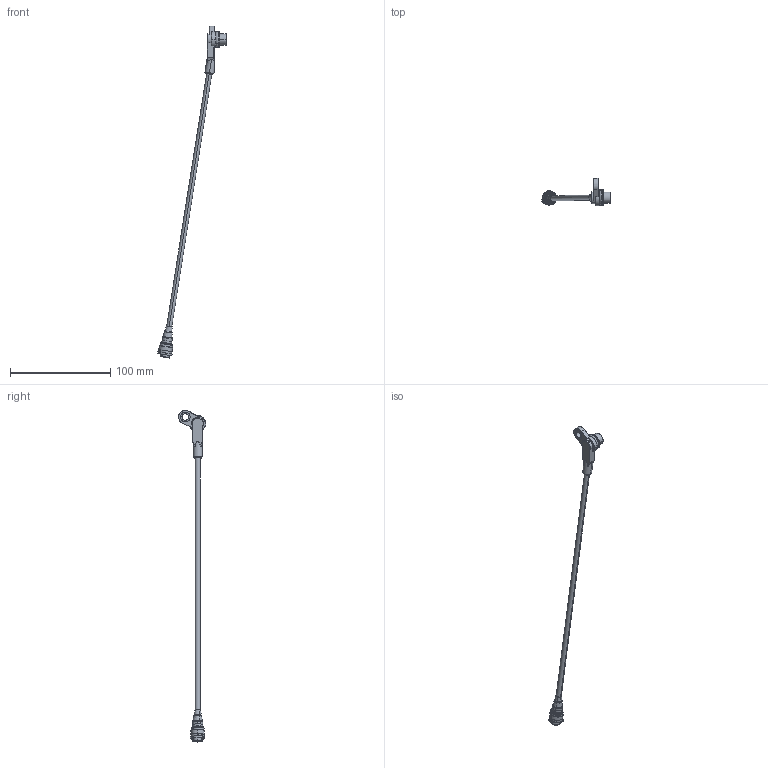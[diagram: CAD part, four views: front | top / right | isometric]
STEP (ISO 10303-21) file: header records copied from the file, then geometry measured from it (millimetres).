
FILE_DESCRIPTION(('CATIA V5 STEP Exchange'),'2;1');
FILE_NAME('\\bosch.com\dfsrb\DfsDE\DIV\BEG\MSD\Entwicklungsprojekte\Sensorik\03_Hardware\03_Sensoren\Datenbank\Speed_Sensors\F 02U V00 500-01\Mechanik\STP\F_02U_V00_500-01_Drehzahlsensor_Mini_HA-P_sealed.stp','2014-09-15T13:58:53+00:00',('none'),('none'),'CATIA Version 5 Release 19 SP 9 (IN-10)','CATIA V5 STEP AP214','none');
FILE_SCHEMA(('AUTOMOTIVE_DESIGN { 1 0 10303 214 1 1 1 1 }'));
Length unit declared in the file: millimetre
Products named in the file (5): F_02U_V00_500-01_Drehzahlsensor_Mini_HA-P_sealed; Drehzahlsensor_Mini_HA-P_sealed; ASL 6-06-05PC-HE; 204W221-25; O-Ring 12.42x1.78
Assembly tree (4 placements, depth 2):
  F_02U_V00_500-01_Drehzahlsensor_Mini_HA-P_sealed
    Drehzahlsensor_Mini_HA-P_sealed
    ASL 6-06-05PC-HE
    204W221-25
    O-Ring 12.42x1.78
Bounding box: 68.92 x 27.35 x 332 mm (x, y, z)
Volume: 12639.9 mm3; surface area: 10260.5 mm2
Topology: 6 solids, 6 shells, 289 faces, 694 edges, 431 vertices
Faces by surface type: cylinder 138, plane 84, torus 24, cone 20, sphere 14, bspline 9
Entity records: 9544 total; most frequent: CARTESIAN_POINT 2864, ORIENTED_EDGE 1360, DIRECTION 1025, EDGE_CURVE 680, AXIS2_PLACEMENT_3D 543, VERTEX_POINT 431, CIRCLE 346, EDGE_LOOP 335
